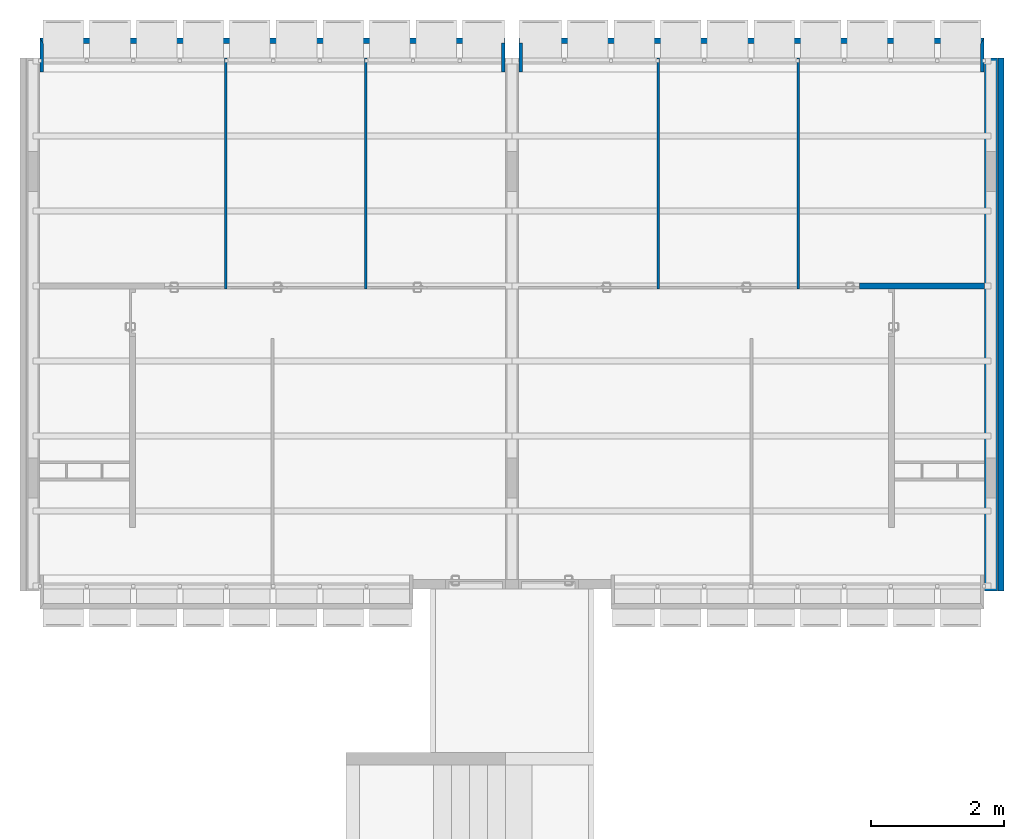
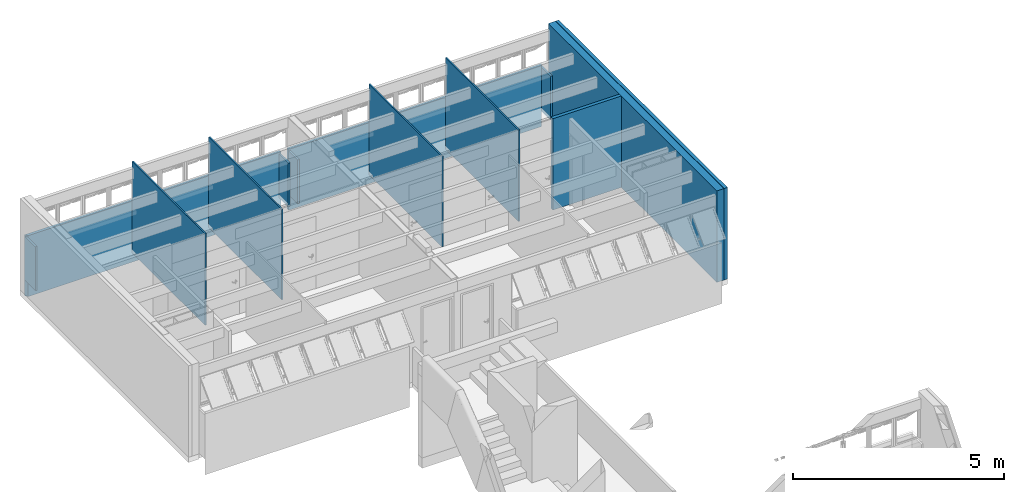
# One storey, part 39 of 40: 13 walls.
"""IFC4 building model written with IfcOpenShell, lengths in millimetres."""

from ifc_helpers import new_model, entity, si_unit, converted_unit, derived_unit, direction, frame, origin_with_axes, place, context, subcontext, project, spatial, line, indexed_curve, outline, extrude, material, layer, layer_set, layer_usage, type_object, element, save


model = new_model("IFC4")

# Units and contexts
model_context = context("Model", 3, precision=0.01, world=origin_with_axes(), true_north=direction((0.0, 1.0)))
body_context = subcontext(model_context, "Body", "Model", "MODEL_VIEW")
ifc_project = project(units=[si_unit("LENGTHUNIT", "METRE", prefix="MILLI"), si_unit("AREAUNIT", "SQUARE_METRE"), si_unit("VOLUMEUNIT", "CUBIC_METRE"), converted_unit("PLANEANGLEUNIT", "DEGREE", entity("IfcPlaneAngleMeasure", 0.0174532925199), si_unit("PLANEANGLEUNIT", "RADIAN"), dimensions=[0, 0, 0, 0, 0, 0, 0]), converted_unit("TIMEUNIT", "Year", entity("IfcTimeMeasure", 31556926.0), si_unit("TIMEUNIT", "SECOND"), dimensions=[0, 0, 1, 0, 0, 0, 0]), si_unit("MASSUNIT", "GRAM", prefix="KILO"), si_unit("THERMODYNAMICTEMPERATUREUNIT", "DEGREE_CELSIUS"), si_unit("LUMINOUSINTENSITYUNIT", "LUMEN"), si_unit("ENERGYUNIT", "JOULE", prefix="MEGA"), derived_unit("THERMALCONDUCTANCEUNIT", [(si_unit("POWERUNIT", "WATT"), 1), (si_unit("LENGTHUNIT", "METRE"), -1), (si_unit("THERMODYNAMICTEMPERATUREUNIT", "KELVIN"), -1)]), derived_unit("SPECIFICHEATCAPACITYUNIT", [(si_unit("ENERGYUNIT", "JOULE"), 1), (si_unit("MASSUNIT", "GRAM", prefix="KILO"), -1), (si_unit("THERMODYNAMICTEMPERATUREUNIT", "KELVIN"), -1)]), derived_unit("MASSDENSITYUNIT", [(si_unit("MASSUNIT", "GRAM", prefix="KILO"), 1), (si_unit("VOLUMEUNIT", "CUBIC_METRE"), -1)])], contexts=[model_context])

# Site, building, storey
site_placement = place(None, origin_with_axes())
site = spatial("IfcSite", under=ifc_project, at=site_placement, Name="Local", CompositionType="ELEMENT")
building_placement = place(site_placement, origin_with_axes())
building = spatial("IfcBuilding", under=site, at=building_placement, Name="Construção", CompositionType="ELEMENT")
storey_placement = place(building_placement, origin_with_axes())
storey = spatial("IfcBuildingStorey", under=building, at=storey_placement, Name="Primeiro Pavimento", CompositionType="ELEMENT", Elevation=0.0)

# Walls
ifc_material_1 = material(Name="GENÉRICO - VEDAÇÃO EXTERNA")
ifc_layer_1 = layer(ifc_material_1, 190.0, ventilated="UNKNOWN", Name="GENÉRICO - VEDAÇÃO EXTERNA")
ifc_layer_set_1 = layer_set([ifc_layer_1], Name="GENÉRICO - VEDAÇÃO EXTERNA 190")
ifc_layer_usage_1 = layer_usage(ifc_layer_set_1, "AXIS2", "NEGATIVE", 0.0)
wall_type_1 = type_object("IfcWallType", Name="GENÉRICO - VEDAÇÃO EXTERNA 190", PredefinedType="NOTDEFINED")
wall_1_placement = place(storey_placement, frame((14480.0, 17860.0, 0.0), z_axis=(0.0, 0.0, 1.0), x_axis=(0.0, 1.0, 0.0)))
element("IfcWall", 1, at=wall_1_placement, inside=storey, type_object=wall_type_1, material=ifc_layer_usage_1, Name="APTO4-PAREDE-013", PredefinedType="NOTDEFINED", context=body_context, shape_type="SweptSolid", body=[
    extrude(outline(indexed_curve([(0.0, -190.0), (8000.0, -190.0), (8000.0, 0.0), (0.0, 0.0)], segments=[line(1, 2, 3, 4, 1)])), origin_with_axes(), (0.0, 0.0, 1.0), 2650.0),
])
ifc_layer_2 = layer(ifc_material_1, 40.0, ventilated="UNKNOWN", Name="GENÉRICO - VEDAÇÃO EXTERNA")
ifc_layer_set_2 = layer_set([ifc_layer_2], Name="GENÉRICO - VEDAÇÃO EXTERNA 40")
ifc_layer_usage_2 = layer_usage(ifc_layer_set_2, "AXIS2", "NEGATIVE", 0.0)
wall_type_2 = type_object("IfcWallType", Name="GENÉRICO - VEDAÇÃO EXTERNA 40", PredefinedType="NOTDEFINED")
wall_2_placement = place(storey_placement, frame((9560.0, 22395.0, 0.0), z_axis=(0.0, 0.0, 1.0), x_axis=(0.0, 1.0, 0.0)))
element("IfcWall", 2, at=wall_2_placement, inside=storey, type_object=wall_type_2, material=ifc_layer_usage_2, Name="APTO4-PAREDE-005", PredefinedType="NOTDEFINED", context=body_context, shape_type="SweptSolid", body=[
    extrude(outline(indexed_curve([(0.0, -40.0), (3465.0, -40.0), (3465.0, 0.0), (0.0, 0.0)], segments=[line(1, 2, 3, 4, 1)])), origin_with_axes(), (0.0, 0.0, 1.0), 2620.0),
])
ifc_layer_usage_3 = layer_usage(ifc_layer_set_2, "AXIS2", "NEGATIVE", 0.0)
wall_3_placement = place(storey_placement, frame((11660.0, 22395.0, 0.0), z_axis=(0.0, 0.0, 1.0), x_axis=(0.0, 1.0, 0.0)))
element("IfcWall", 3, at=wall_3_placement, inside=storey, type_object=wall_type_2, material=ifc_layer_usage_3, Name="APTO4-PAREDE-007", PredefinedType="NOTDEFINED", context=body_context, shape_type="SweptSolid", body=[
    extrude(outline(indexed_curve([(0.0, -40.0), (3465.0, -40.0), (3465.0, 0.0), (0.0, 0.0)], segments=[line(1, 2, 3, 4, 1)])), origin_with_axes(), (0.0, 0.0, 1.0), 2650.0),
])
ifc_layer_usage_4 = layer_usage(ifc_layer_set_2, "AXIS2", "POSITIVE", 0.0)
wall_4_placement = place(storey_placement, frame((5210.0, 22395.0, 0.0), z_axis=(0.0, 0.0, 1.0), x_axis=(0.0, 1.0, 0.0)))
element("IfcWall", 4, at=wall_4_placement, inside=storey, type_object=wall_type_2, material=ifc_layer_usage_4, Name="APTO3-PAREDE-005", PredefinedType="NOTDEFINED", context=body_context, shape_type="SweptSolid", body=[
    extrude(outline(indexed_curve([(0.0, 0.0), (3465.0, 0.0), (3465.0, 40.0), (0.0, 40.0)], segments=[line(1, 2, 3, 4, 1)])), origin_with_axes(), (0.0, 0.0, 1.0), 2620.0),
])
ifc_layer_usage_5 = layer_usage(ifc_layer_set_2, "AXIS2", "POSITIVE", 0.0)
wall_5_placement = place(storey_placement, frame((3110.0, 22395.0, 0.0), z_axis=(0.0, 0.0, 1.0), x_axis=(0.0, 1.0, 0.0)))
element("IfcWall", 5, at=wall_5_placement, inside=storey, type_object=wall_type_2, material=ifc_layer_usage_5, Name="APTO3-PAREDE-007", PredefinedType="NOTDEFINED", context=body_context, shape_type="SweptSolid", body=[
    extrude(outline(indexed_curve([(0.0, 0.0), (3465.0, 0.0), (3465.0, 40.0), (0.0, 40.0)], segments=[line(1, 2, 3, 4, 1)])), origin_with_axes(), (0.0, 0.0, 1.0), 2650.0),
])
ifc_layer_3 = layer(ifc_material_1, 90.0, ventilated="UNKNOWN", Name="GENÉRICO - VEDAÇÃO EXTERNA")
ifc_layer_set_3 = layer_set([ifc_layer_3], Name="GENÉRICO - VEDAÇÃO EXTERNA 90")
ifc_layer_usage_6 = layer_usage(ifc_layer_set_3, "AXIS2", "NEGATIVE", 0.0)
wall_type_3 = type_object("IfcWallType", Name="GENÉRICO - VEDAÇÃO EXTERNA 90", PredefinedType="NOTDEFINED")
wall_6_placement = place(storey_placement, frame((14680.0, 17860.0, 0.0), z_axis=(0.0, 0.0, 1.0), x_axis=(0.0, 1.0, 0.0)))
element("IfcWall", 6, at=wall_6_placement, inside=storey, type_object=wall_type_3, material=ifc_layer_usage_6, Name="APTO4-PAREDE-014", PredefinedType="NOTDEFINED", context=body_context, shape_type="SweptSolid", body=[
    extrude(outline(indexed_curve([(0.0, -90.0), (8000.0, -90.0), (8000.0, 0.0), (0.0, 0.0)], segments=[line(1, 2, 3, 4, 1)])), origin_with_axes(), (0.0, 0.0, 1.0), 2650.0),
])
ifc_layer_usage_7 = layer_usage(ifc_layer_set_3, "AXIS2", "NEGATIVE", 0.0)
wall_7_placement = place(storey_placement, frame((14480.0, 22394.7804333, 0.0), z_axis=(0.0, 0.0, 1.0), x_axis=(-1.0, 0.0, 0.0)))
element("IfcWall", 7, at=wall_7_placement, inside=storey, type_object=wall_type_3, material=ifc_layer_usage_7, Name="APTO4-PAREDE-019", PredefinedType="NOTDEFINED", context=body_context, shape_type="SweptSolid", body=[
    extrude(outline(indexed_curve([(0.0, -90.0), (1879.99807021, -90.0), (1880.0, 0.0), (0.0, 0.0)], segments=[line(1, 2, 3, 4, 1)])), origin_with_axes(), (0.0, 0.0, 1.0), 2650.0),
])
ifc_material_2 = material(Name="Concreto Armado Moldado in Loco - Estrutural")
ifc_layer_4 = layer(ifc_material_2, 50.0, ventilated="UNKNOWN", Name="Concreto Armado Moldado in Loco - Estrutural")
ifc_layer_set_4 = layer_set([ifc_layer_4], Name="Concreto Armado Moldado in Loco - Estrutural 50")
ifc_layer_usage_8 = layer_usage(ifc_layer_set_4, "AXIS2", "NEGATIVE", 50.0)
wall_type_4 = type_object("IfcWallType", Name="Concreto Armado Moldado in Loco - Estrutural 50", PredefinedType="NOTDEFINED")
wall_8_placement = place(storey_placement, frame((14470.0, 25650.0, 0.0), z_axis=(0.0, 0.0, 1.0), x_axis=(0.0, 1.0, 0.0)))
element("IfcWall", 8, at=wall_8_placement, inside=storey, type_object=wall_type_4, material=ifc_layer_usage_8, Name="APTO4-PAREDE-002", PredefinedType="NOTDEFINED", context=body_context, shape_type="SweptSolid", body=[
    extrude(outline(indexed_curve([(0.0, 0.0), (510.0, 0.0), (430.0, 50.0), (0.0, 50.0)], segments=[line(1, 2, 3, 4, 1)])), origin_with_axes(), (0.0, 0.0, 1.0), 1270.0),
])
ifc_layer_usage_9 = layer_usage(ifc_layer_set_4, "AXIS2", "NEGATIVE", 50.0)
wall_9_placement = place(storey_placement, frame((7540.0, 25650.0, 0.0), z_axis=(0.0, 0.0, 1.0), x_axis=(0.0, 1.0, 0.0)))
element("IfcWall", 9, at=wall_9_placement, inside=storey, type_object=wall_type_4, material=ifc_layer_usage_9, Name="APTO4-PAREDE-001", PredefinedType="NOTDEFINED", context=body_context, shape_type="SweptSolid", body=[
    extrude(outline(indexed_curve([(0.0, 0.0), (435.0, 0.0), (435.0, 50.0), (0.0, 50.0)], segments=[line(1, 2, 3, 4, 1)])), origin_with_axes(), (0.0, 0.0, 1.0), 1270.0),
])
ifc_layer_usage_10 = layer_usage(ifc_layer_set_4, "AXIS2", "POSITIVE", -50.0)
wall_10_placement = place(storey_placement, frame((300.0, 25650.0, 0.0), z_axis=(0.0, 0.0, 1.0), x_axis=(0.0, 1.0, 0.0)))
element("IfcWall", 10, at=wall_10_placement, inside=storey, type_object=wall_type_4, material=ifc_layer_usage_10, Name="APTO3-PAREDE-002", PredefinedType="NOTDEFINED", context=body_context, shape_type="SweptSolid", body=[
    extrude(outline(indexed_curve([(0.0, -50.0), (430.0, -50.0), (510.0, 0.0), (0.0, 0.0)], segments=[line(1, 2, 3, 4, 1)])), origin_with_axes(), (0.0, 0.0, 1.0), 1270.0),
])
ifc_layer_usage_11 = layer_usage(ifc_layer_set_4, "AXIS2", "POSITIVE", -50.0)
wall_11_placement = place(storey_placement, frame((7230.0, 25650.0, 0.0), z_axis=(0.0, 0.0, 1.0), x_axis=(0.0, 1.0, 0.0)))
element("IfcWall", 11, at=wall_11_placement, inside=storey, type_object=wall_type_4, material=ifc_layer_usage_11, Name="APTO3-PAREDE-001", PredefinedType="NOTDEFINED", context=body_context, shape_type="SweptSolid", body=[
    extrude(outline(indexed_curve([(0.0, -50.0), (435.0, -50.0), (435.0, 0.0), (0.0, 0.0)], segments=[line(1, 2, 3, 4, 1)])), origin_with_axes(), (0.0, 0.0, 1.0), 1270.0),
])
ifc_layer_5 = layer(ifc_material_2, 80.0, ventilated="UNKNOWN", Name="Concreto Armado Moldado in Loco - Estrutural")
ifc_layer_set_5 = layer_set([ifc_layer_5], Name="Concreto Armado Moldado in Loco - Estrutural 80")
ifc_layer_usage_12 = layer_usage(ifc_layer_set_5, "AXIS2", "POSITIVE", -80.0)
wall_type_5 = type_object("IfcWallType", Name="Concreto Armado Moldado in Loco - Estrutural 80", PredefinedType="NOTDEFINED")
wall_12_placement = place(storey_placement, frame((14470.0, 26080.0, -450.0), z_axis=(0.0, 0.0, 1.0), x_axis=(-1.0, 0.0, 0.0)))
element("IfcWall", 12, at=wall_12_placement, inside=storey, type_object=wall_type_5, material=ifc_layer_usage_12, Name="APTO4-PAREDE-015", PredefinedType="NOTDEFINED", context=body_context, shape_type="SweptSolid", body=[
    extrude(outline(indexed_curve([(0.0, -80.0), (6980.0, -80.0), (6980.0, 0.0), (50.0, 0.0)], segments=[line(1, 2, 3, 4, 1)])), origin_with_axes(), (0.0, 0.0, 1.0), 1765.0),
])
ifc_layer_usage_13 = layer_usage(ifc_layer_set_5, "AXIS2", "NEGATIVE", 80.0)
wall_13_placement = place(storey_placement, frame((300.0, 26080.0, -450.0), z_axis=(0.0, 0.0, 1.0), x_axis=(1.0, 0.0, 0.0)))
element("IfcWall", 13, at=wall_13_placement, inside=storey, type_object=wall_type_5, material=ifc_layer_usage_13, Name="APTO3-PAREDE-015", PredefinedType="NOTDEFINED", context=body_context, shape_type="SweptSolid", body=[
    extrude(outline(indexed_curve([(50.0, 0.0), (6980.0, 0.0), (6980.0, 80.0), (0.0, 80.0)], segments=[line(1, 2, 3, 4, 1)])), origin_with_axes(), (0.0, 0.0, 1.0), 1765.0),
])

save(model, "model.ifc")
